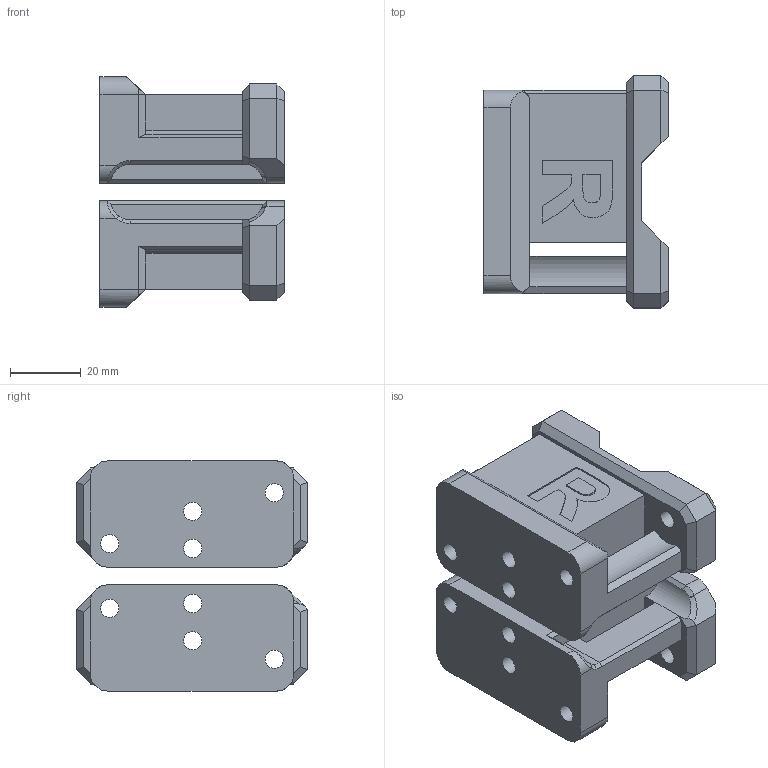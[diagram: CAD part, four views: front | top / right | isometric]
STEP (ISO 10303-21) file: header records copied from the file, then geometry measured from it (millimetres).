
FILE_DESCRIPTION(/* description */ (''),/* implementation_level */ '2;1');
FILE_NAME(/* name */ 'C:/Users/fbroise/Downloads/VC31std.step',/* time_stamp */ '2022-09-12T15:14:22+02:00',/* author */ (''),/* organization */ (''),/* preprocessor_version */ 'ST-DEVELOPER v19',/* originating_system */ 'Autodesk Translation Framework v11.7.0.108',/* authorisation */ '');
FILE_SCHEMA (('AUTOMOTIVE_DESIGN { 1 0 10303 214 3 1 1 }'));
Length unit declared in the file: millimetre
Products named in the file (1): xy_joiner_right_3.1 v1 (1)
Bounding box: 52 x 65.5 x 65 mm (x, y, z)
Volume: 99203.3 mm3; surface area: 32153.1 mm2
Topology: 2 solids, 2 shells, 217 faces, 583 edges, 372 vertices
Faces by surface type: plane 143, cylinder 38, bspline 26, cone 10
Full cylindrical faces by diameter (mm): 5.16 x14, 9 x4
Entity records: 7242 total; most frequent: CARTESIAN_POINT 1845, ORIENTED_EDGE 1166, DIRECTION 997, EDGE_CURVE 583, LINE 437, VECTOR 437, VERTEX_POINT 372, AXIS2_PLACEMENT_3D 280
